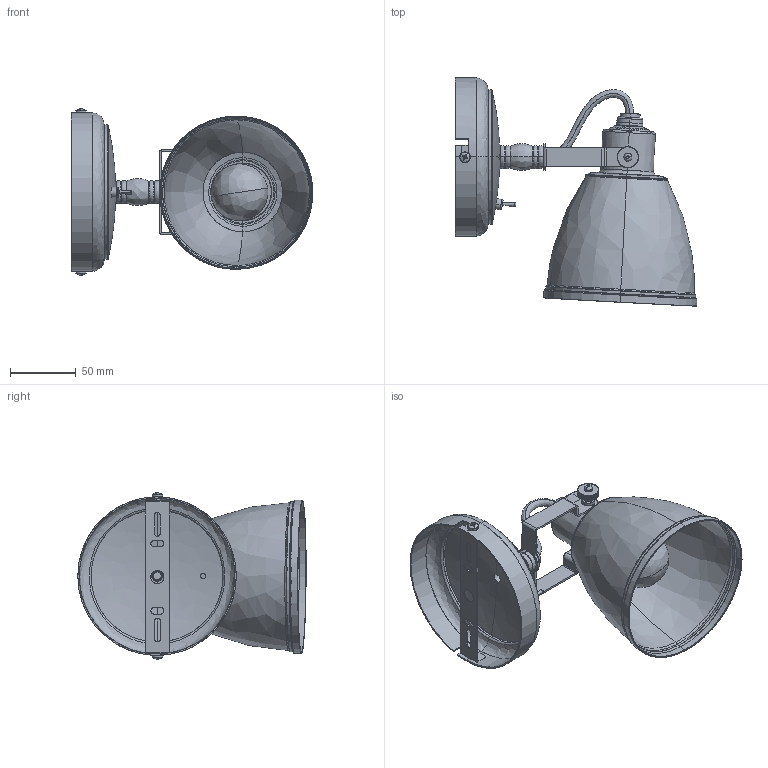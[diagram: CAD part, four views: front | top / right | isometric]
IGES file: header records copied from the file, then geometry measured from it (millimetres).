
Start section: SolidWorks IGES file using analytic representation for surfaces
Global section: file name: E:\3D lampy\Axe\Axe_5446.IGS; native system: SolidWorks 2016; preprocessor: SolidWorks 2016; author: Asia; date: 171006.101138; units: millimetre
Bounding box: 183.2 x 172.97 x 125.98 mm (x, y, z)
Surface area: 157029.6 mm2 (no closed solid volume)
Topology: 0 solids, 0 shells, 2075 faces, 15967 edges, 15963 vertices
Faces by surface type: bspline 1119, revolution 956
